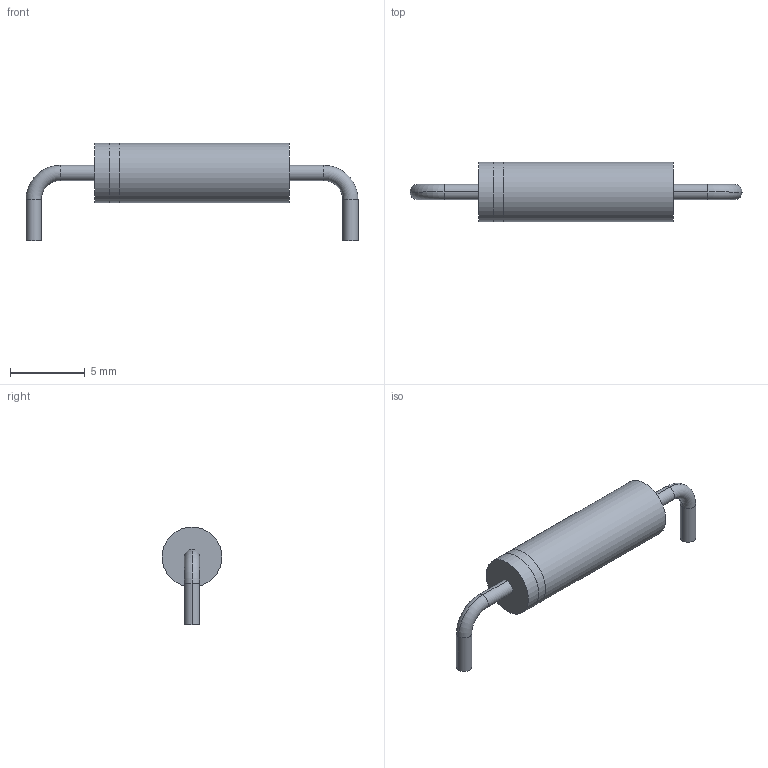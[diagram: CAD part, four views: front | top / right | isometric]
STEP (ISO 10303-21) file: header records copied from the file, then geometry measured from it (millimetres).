
FILE_DESCRIPTION(('STEP AP214'),'1');
FILE_NAME('FUSE_SDF_CTM','2023-03-09T09:17:20',(''),(''),'','','');
FILE_SCHEMA(('AUTOMOTIVE_DESIGN'));
Length unit declared in the file: millimetre
Products named in the file (1): product
Bounding box: 22.2 x 3.99 x 6.53 mm (x, y, z)
Volume: 175.2 mm3; surface area: 257.7 mm2
Topology: 4 solids, 4 shells, 23 faces, 41 edges, 26 vertices
Faces by surface type: cylinder 11, plane 8, torus 4
Full cylindrical faces by diameter (mm): 3.988 x2, 3.993 x1
Entity records: 610 total; most frequent: DIRECTION 118, ORIENTED_EDGE 76, CARTESIAN_POINT 65, AXIS2_PLACEMENT_3D 55, EDGE_CURVE 38, CIRCLE 30, EDGE_LOOP 28, VERTEX_POINT 26
